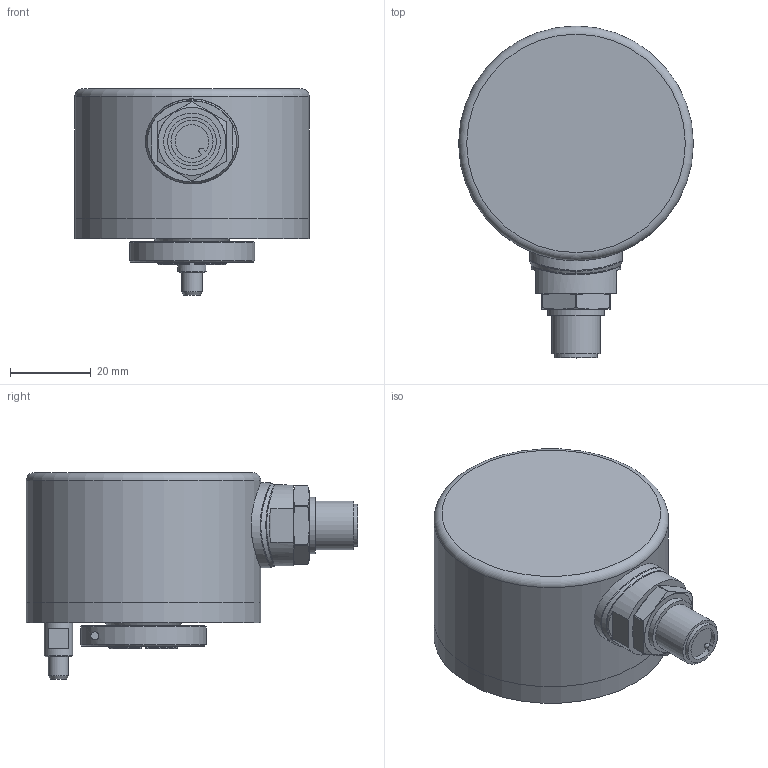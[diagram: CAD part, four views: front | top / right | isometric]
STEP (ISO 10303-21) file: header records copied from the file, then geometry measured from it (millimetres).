
FILE_DESCRIPTION( ( 'Unknown' ), '1' );
FILE_NAME( 'Z:/PJ-RD-MC/10601626_MAGRES_4/20__Produktmanagement/Datenblatt/Vereinfachte Modelle und DAB-Zeichnungen/November 2016/58/Hohlwelle/ø15/EAM580-BEF.xxxx.xxxxx.A_M12.stp', 'Unknown', ( 'Unknown' ), ( 'Unknown' ), 'PSStep 15.0.49', 'Unknown', ' ' );
FILE_SCHEMA( ( 'AUTOMOTIVE_DESIGN { 1 0 10303 214 1 1 1 1 }' ) );
Length unit declared in the file: millimetre
Products named in the file (13): 58 H BoMo 15 vereinfacht; 11158182_vereinfacht; 11158187 vereinfacht; 11115507; 126053; Stecker M12; 11099322_vereinfacht; 11099323_vereinfacht; 6Kant Mutter M14; EAM580-BNF.xxxx.xxxxx.A_M12; 11161007_vereinfacht; Assem1; 11173489
Assembly tree (12 placements, depth 4):
  Assem1
    11173489
    EAM580-BNF.xxxx.xxxxx.A_M12
      11161007_vereinfacht
      Stecker M12
        11099322_vereinfacht
        11099323_vereinfacht
        6Kant Mutter M14
      58 H BoMo 15 vereinfacht
        11158182_vereinfacht
        11158187 vereinfacht
        11115507
        126053
Bounding box: 58 x 82 x 51 mm (x, y, z)
Surface area: 32360.6 mm2 (no closed solid volume)
Topology: 0 solids, 177 shells, 177 faces, 764 edges, 719 vertices
Faces by surface type: plane 88, cylinder 52, cone 19, torus 10, bspline 6, extrusion 2
Full cylindrical faces by diameter (mm): 2.013 x1, 2.5 x1, 2.6 x1, 3 x1, 3.242 x8, 4 x1, 4.5 x1, 5 x1, 7 x1, 10.4 x1, 12 x1, 14 x2, 15 x1, 15.4 x1, 16.5 x1, 19 x2, 56 x2, 58 x2
Entity records: 14642 total; most frequent: CARTESIAN_POINT 7441, DIRECTION 1242, ORIENTED_EDGE 704, EDGE_CURVE 704, VERTEX_POINT 704, AXIS2_PLACEMENT_3D 475, VECTOR 292, LINE 290
